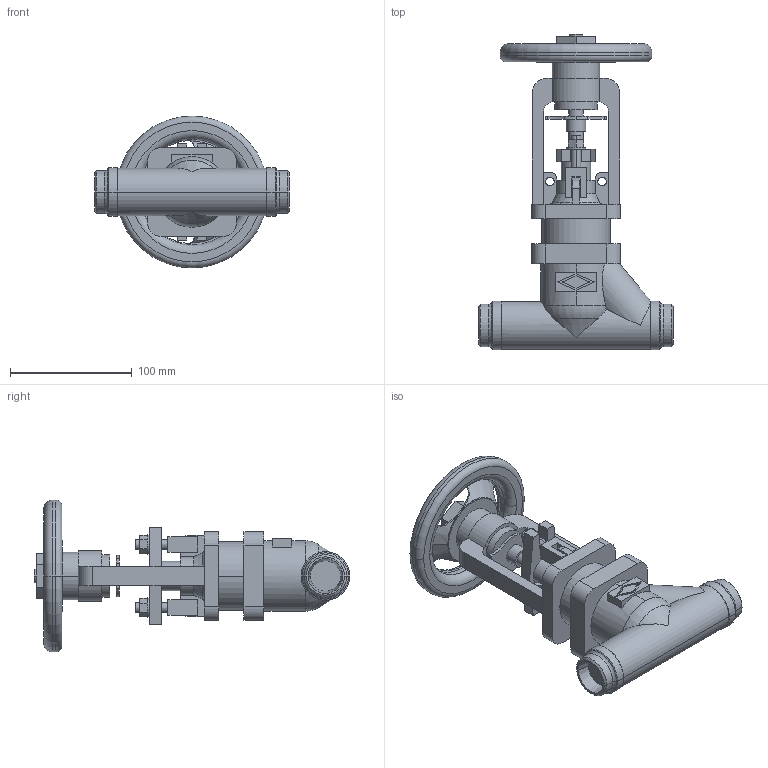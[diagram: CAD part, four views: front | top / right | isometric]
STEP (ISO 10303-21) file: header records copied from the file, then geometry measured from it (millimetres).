
FILE_DESCRIPTION(('OneSpaceDesigner STEP Export'),'2;1');
FILE_NAME('c000004304.stp','2010-05-06T 8:55:44',(''),(''),'OneSpace Designer STEP processor for AP214 (Solid Model)','OneSpace Modeling 15.50B 03-Nov-2007 (C) CoCreate Software GmbH','');
FILE_SCHEMA(('AUTOMOTIVE_DESIGN { 1 0 10303 214 1 1 1 1 }'));
Length unit declared in the file: millimetre
Products named in the file (1): 1
Bounding box: 160 x 259.5 x 125 mm (x, y, z)
Volume: 760271.1 mm3; surface area: 121078.9 mm2
Topology: 1 solids, 1 shells, 276 faces, 732 edges, 478 vertices
Faces by surface type: plane 138, cylinder 94, cone 24, torus 20
Entity records: 10879 total; most frequent: CARTESIAN_POINT 2067, ORIENTED_EDGE 1464, DIRECTION 1259, EDGE_CURVE 732, VERTEX_POINT 478, AXIS2_PLACEMENT_3D 426, VECTOR 407, LINE 407
